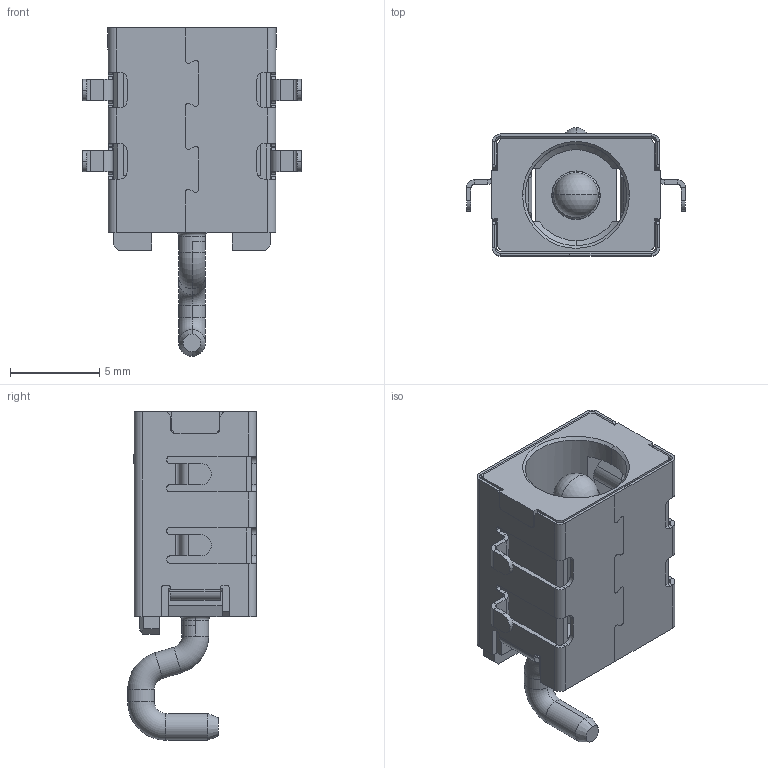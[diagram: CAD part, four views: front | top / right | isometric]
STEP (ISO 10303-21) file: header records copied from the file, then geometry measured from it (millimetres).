
FILE_DESCRIPTION (( 'STEP AP203' ), '1' );
FILE_NAME ('DC-S007C-D025-15A.STEP', '2023-07-14T11:34:26', ( '' ), ( '' ), 'SwSTEP 2.0', 'SolidWorks 2023', '' );
FILE_SCHEMA (( 'CONFIG_CONTROL_DESIGN' ));
Length unit declared in the file: millimetre
Products named in the file (1): DC-S007C-D025-15A
Bounding box: 12.3 x 7.22 x 18.45 mm (x, y, z)
Volume: 431 mm3; surface area: 1714.5 mm2
Topology: 1 solids, 1 shells, 968 faces, 2649 edges, 1668 vertices
Faces by surface type: plane 597, cylinder 249, bspline 78, cone 34, torus 8, sphere 2
Entity records: 34371 total; most frequent: CARTESIAN_POINT 10180, ORIENTED_EDGE 5290, DIRECTION 4670, EDGE_CURVE 2645, LINE 1834, VECTOR 1834, VERTEX_POINT 1666, AXIS2_PLACEMENT_3D 1418
